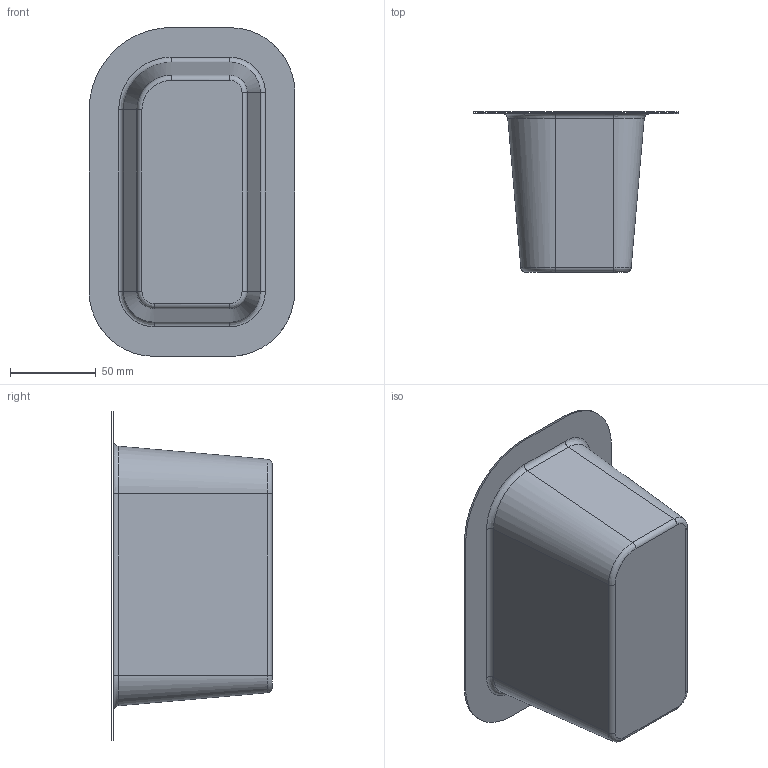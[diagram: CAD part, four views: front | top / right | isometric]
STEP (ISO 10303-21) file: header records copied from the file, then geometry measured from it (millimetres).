
FILE_DESCRIPTION(('CATIA V5 STEP Exchange'),'2;1');
FILE_NAME('C:\_Andres\UNIVERSIDAD\IQS\ASIGNATURAS\DAO\Controles\1617\c3\2inicio\Villarroya_Marquina_control3_v36.stp','2017-02-17T14:22:15+00:00',('none'),('none'),'CATIA Version 5-6 Release 2014 SP1 HF18','CATIA V5 STEP AP203','none');
FILE_SCHEMA(('CONFIG_CONTROL_DESIGN'));
Length unit declared in the file: millimetre
Products named in the file (1): Villarroya_Marquina_control3_v36
Bounding box: 120.21 x 93.65 x 192.21 mm (x, y, z)
Surface area: 76800.2 mm2 (no closed solid volume)
Topology: 0 solids, 2 shells, 27 faces, 80 edges, 57 vertices
Faces by surface type: bspline 16, cylinder 8, plane 3
Entity records: 1907 total; most frequent: CARTESIAN_POINT 1311, ORIENTED_EDGE 128, EDGE_CURVE 72, B_SPLINE_CURVE_WITH_KNOTS 54, DIRECTION 50, VERTEX_POINT 48, EDGE_LOOP 28, ADVANCED_FACE 27
